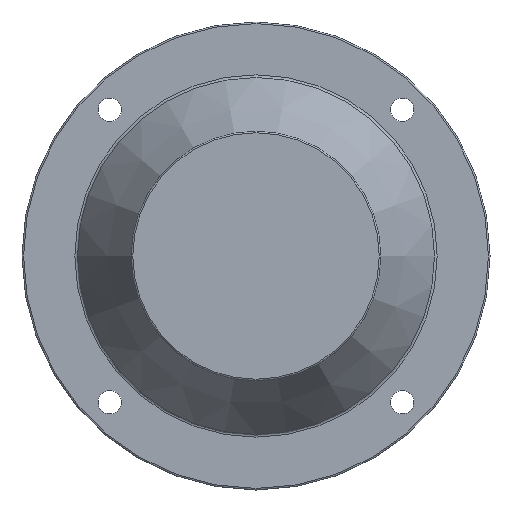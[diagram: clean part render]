
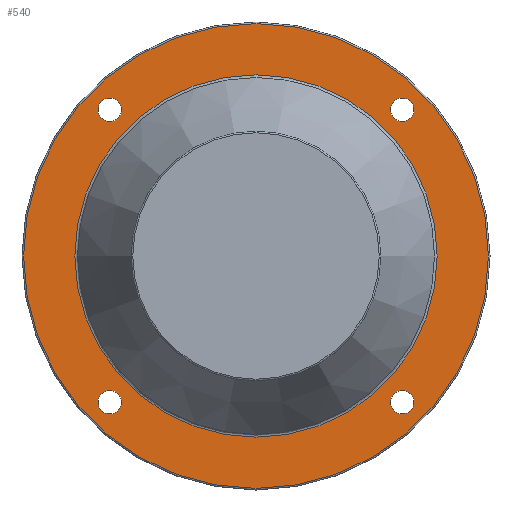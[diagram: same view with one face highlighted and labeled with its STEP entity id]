
A CAD part, left-side view. The second image highlights one B-rep face of the part: STEP entity #540.
In plain terms, the highlighted planar face has unit normal (-1, 0, 0).
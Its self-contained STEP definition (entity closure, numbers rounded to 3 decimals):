
#254=CARTESIAN_POINT('',(111.,101.192,-93.692));
#255=VERTEX_POINT('',#254);
#256=CARTESIAN_POINT('',(111.,93.692,-93.692));
#257=DIRECTION('',(1.0,0.0,0.0));
#258=DIRECTION('',(0.0,1.0,0.0));
#259=AXIS2_PLACEMENT_3D('',#256,#257,#258);
#260=CIRCLE('',#259,7.5);
#261=EDGE_CURVE('',#255,#255,#260,.T.);
#303=CARTESIAN_POINT('',(111.,-86.192,-93.692));
#304=VERTEX_POINT('',#303);
#305=CARTESIAN_POINT('',(111.,-93.692,-93.692));
#306=DIRECTION('',(1.0,0.0,0.0));
#307=DIRECTION('',(0.0,1.0,0.0));
#308=AXIS2_PLACEMENT_3D('',#305,#306,#307);
#309=CIRCLE('',#308,7.5);
#310=EDGE_CURVE('',#304,#304,#309,.T.);
#352=CARTESIAN_POINT('',(111.,-86.192,93.692));
#353=VERTEX_POINT('',#352);
#354=CARTESIAN_POINT('',(111.,-93.692,93.692));
#355=DIRECTION('',(1.0,0.0,0.0));
#356=DIRECTION('',(0.0,1.0,0.0));
#357=AXIS2_PLACEMENT_3D('',#354,#355,#356);
#358=CIRCLE('',#357,7.5);
#359=EDGE_CURVE('',#353,#353,#358,.T.);
#401=CARTESIAN_POINT('',(111.,101.192,93.692));
#402=VERTEX_POINT('',#401);
#403=CARTESIAN_POINT('',(111.,93.692,93.692));
#404=DIRECTION('',(1.0,0.0,0.0));
#405=DIRECTION('',(0.0,1.0,0.0));
#406=AXIS2_PLACEMENT_3D('',#403,#404,#405);
#407=CIRCLE('',#406,7.5);
#408=EDGE_CURVE('',#402,#402,#407,.T.);
#477=CARTESIAN_POINT('',(111.,116.138,0.));
#478=VERTEX_POINT('',#477);
#479=CARTESIAN_POINT('',(111.,0.0,0.0));
#480=DIRECTION('',(-1.0,0.0,0.0));
#481=DIRECTION('',(0.0,-1.0,0.0));
#482=AXIS2_PLACEMENT_3D('',#479,#480,#481);
#483=CIRCLE('',#482,116.138);
#484=EDGE_CURVE('',#478,#478,#483,.T.);
#509=CARTESIAN_POINT('',(111.,132.5,0.));
#510=DIRECTION('',(-1.0,0.0,0.0));
#511=DIRECTION('',(0.0,0.0,1.0));
#512=AXIS2_PLACEMENT_3D('',#509,#510,#511);
#513=PLANE('',#512);
#514=CARTESIAN_POINT('',(111.,149.0,0.0));
#515=VERTEX_POINT('',#514);
#516=CARTESIAN_POINT('',(111.,0.0,0.0));
#517=DIRECTION('',(1.0,0.0,0.0));
#518=DIRECTION('',(0.0,-1.0,0.0));
#519=AXIS2_PLACEMENT_3D('',#516,#517,#518);
#520=CIRCLE('',#519,149.0);
#521=EDGE_CURVE('',#515,#515,#520,.T.);
#522=ORIENTED_EDGE('',*,*,#521,.F.);
#523=EDGE_LOOP('',(#522));
#524=FACE_OUTER_BOUND('',#523,.T.);
#525=ORIENTED_EDGE('',*,*,#261,.T.);
#526=EDGE_LOOP('',(#525));
#527=FACE_BOUND('',#526,.T.);
#528=ORIENTED_EDGE('',*,*,#310,.T.);
#529=EDGE_LOOP('',(#528));
#530=FACE_BOUND('',#529,.T.);
#531=ORIENTED_EDGE('',*,*,#359,.T.);
#532=EDGE_LOOP('',(#531));
#533=FACE_BOUND('',#532,.T.);
#534=ORIENTED_EDGE('',*,*,#408,.T.);
#535=EDGE_LOOP('',(#534));
#536=FACE_BOUND('',#535,.T.);
#537=ORIENTED_EDGE('',*,*,#484,.F.);
#538=EDGE_LOOP('',(#537));
#539=FACE_BOUND('',#538,.T.);
#540=ADVANCED_FACE('',(#524,#527,#530,#533,#536,#539),#513,.T.);
